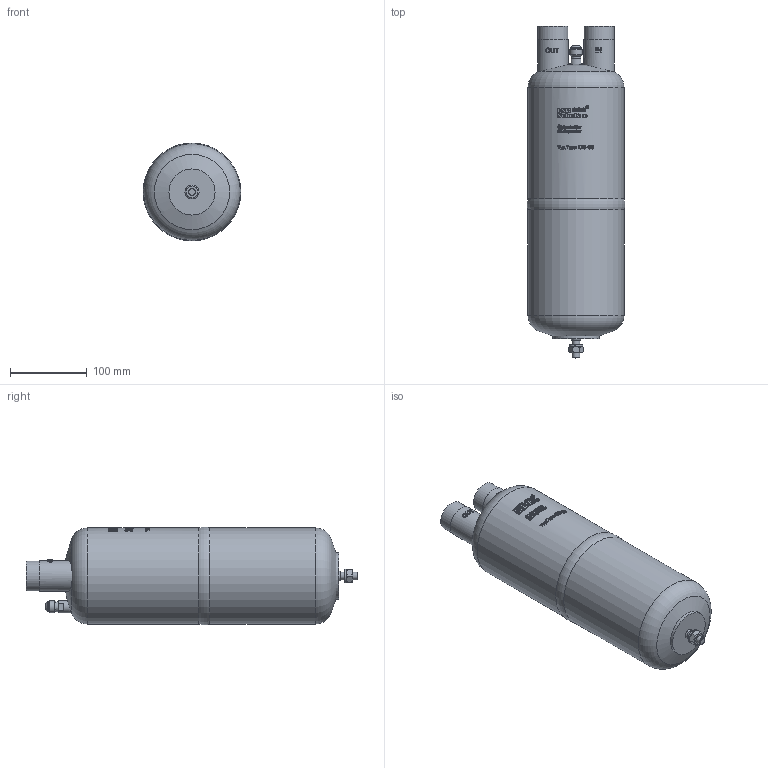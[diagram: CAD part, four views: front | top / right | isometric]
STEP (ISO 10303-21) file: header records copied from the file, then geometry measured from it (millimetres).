
FILE_DESCRIPTION(/* description */ (''),/* implementation_level */ '2;1');
FILE_NAME(/* name */ 'P:\OS\OS-35\OS-35.stp',/* time_stamp */ '2017-10-04T08:02:33+02:00',/* author */ ('neufeld'),/* organization */ (''),/* preprocessor_version */ 'ST-DEVELOPER v16.1',/* originating_system */ 'Autodesk Inventor 2016',/* authorisation */ '');
FILE_SCHEMA (('AUTOMOTIVE_DESIGN { 1 0 10303 214 3 1 1 }'));
Length unit declared in the file: millimetre
Products named in the file (2): OS-35; OS-35_1
Assembly tree (1 placements, depth 2):
  OS-35_1
    OS-35
Bounding box: 127.2 x 432 x 127.2 mm (x, y, z)
Volume: 4260924.2 mm3; surface area: 175305.1 mm2
Topology: 1 solids, 1 shells, 1010 faces, 2735 edges, 1817 vertices
Faces by surface type: plane 513, bspline 380, cylinder 102, cone 10, torus 4, sphere 1
Full cylindrical faces by diameter (mm): 7.2 x1, 10 x2, 12.9 x1, 13.5 x1, 15.7 x1, 16 x1, 35.2 x2, 39 x2, 40 x2, 60 x1, 125 x2
Entity records: 39709 total; most frequent: CARTESIAN_POINT 16376, ORIENTED_EDGE 5394, DIRECTION 3880, EDGE_CURVE 2697, VERTEX_POINT 1810, AXIS2_PLACEMENT_3D 1328, LINE 1224, VECTOR 1224
